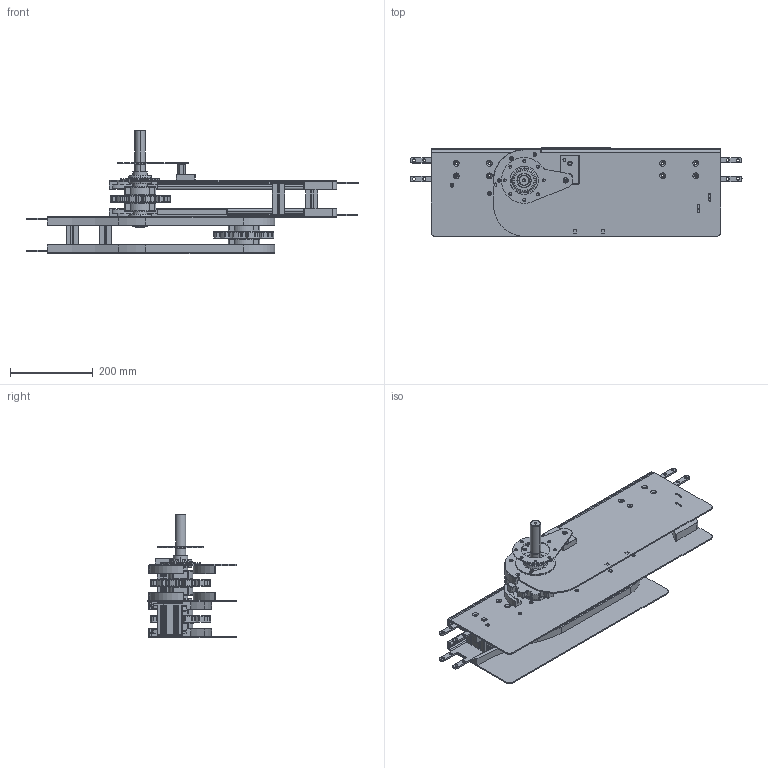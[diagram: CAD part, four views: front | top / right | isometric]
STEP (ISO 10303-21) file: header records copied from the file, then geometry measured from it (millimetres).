
FILE_DESCRIPTION (( 'STEP AP203' ), '1' );
FILE_NAME ('2000.325.749L.STEP', '2015-04-15T12:31:06', ( '' ), ( '' ), 'SwSTEP 2.0', 'SolidWorks 2012', '' );
FILE_SCHEMA (( 'CONFIG_CONTROL_DESIGN' ));
Length unit declared in the file: millimetre
Products named in the file (1): 2000.325.749L
Bounding box: 800.6 x 214.8 x 298 mm (x, y, z)
Volume: 3350623.7 mm3; surface area: 1666447.1 mm2
Topology: 41 solids, 41 shells, 2322 faces, 6062 edges, 3825 vertices
Faces by surface type: cylinder 956, plane 876, torus 344, cone 126, sphere 20
Entity records: 72625 total; most frequent: DIRECTION 13242, CARTESIAN_POINT 12860, ORIENTED_EDGE 12060, EDGE_CURVE 6030, AXIS2_PLACEMENT_3D 4961, VERTEX_POINT 3811, LINE 3320, VECTOR 3320
